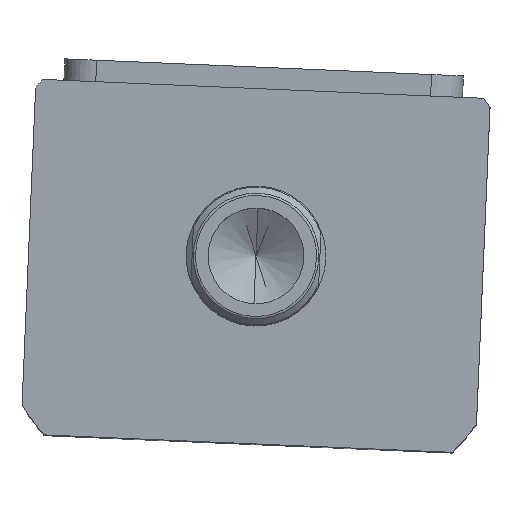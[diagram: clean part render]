
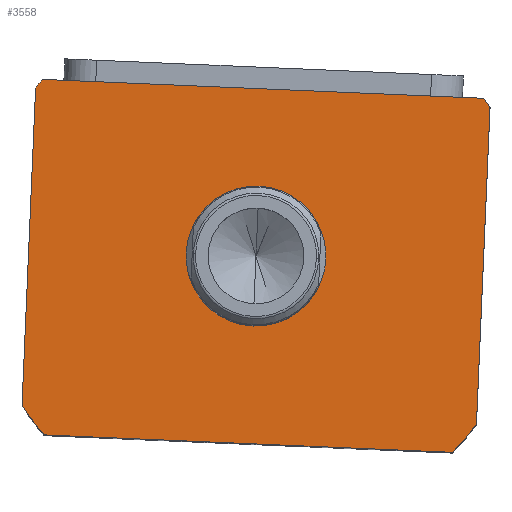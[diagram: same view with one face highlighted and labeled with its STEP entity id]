
A CAD part, top view. The second image highlights one B-rep face of the part: STEP entity #3558.
In plain terms, the highlighted planar face has unit normal (0, 0, 1) as drawn and (0, 0, -1) by its records, which use the part's own axes.
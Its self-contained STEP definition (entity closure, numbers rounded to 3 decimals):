
#67 = VECTOR ( 'NONE', #7026, 1000. ) ;
#179 = DIRECTION ( 'NONE',  ( 1., 0., 0. ) ) ;
#429 = DIRECTION ( 'NONE',  ( 0., 0., 1. ) ) ;
#519 = VERTEX_POINT ( 'NONE', #6911 ) ;
#661 = DIRECTION ( 'NONE',  ( 0., 0., 1. ) ) ;
#788 = ORIENTED_EDGE ( 'NONE', *, *, #6163, .F. ) ;
#1131 = VERTEX_POINT ( 'NONE', #6385 ) ;
#1159 = VERTEX_POINT ( 'NONE', #5357 ) ;
#1166 = LINE ( 'NONE', #5919, #18731 ) ;
#1296 = VERTEX_POINT ( 'NONE', #1778 ) ;
#1665 = CIRCLE ( 'NONE', #10764, 69.5 ) ;
#1778 = CARTESIAN_POINT ( 'NONE',  ( -55.374, 44.5, 0. ) ) ;
#1914 = DIRECTION ( 'NONE',  ( 1., 0., 0. ) ) ;
#2025 = ORIENTED_EDGE ( 'NONE', *, *, #9361, .F. ) ;
#2246 = VERTEX_POINT ( 'NONE', #15488 ) ;
#2801 = FACE_BOUND ( 'NONE', #5632, .T. ) ;
#3169 = AXIS2_PLACEMENT_3D ( 'NONE', #15625, #6961, #17053 ) ;
#3246 = CIRCLE ( 'NONE', #9551, 17.5 ) ;
#3558 = ADVANCED_FACE ( 'NONE', ( #2801, #17785 ), #7801, .F. ) ;
#4352 = EDGE_CURVE ( 'NONE', #1296, #519, #5086, .T. ) ;
#5086 = CIRCLE ( 'NONE', #13760, 69.5 ) ;
#5357 = CARTESIAN_POINT ( 'NONE',  ( 57., 42.265, 0. ) ) ;
#5456 = EDGE_CURVE ( 'NONE', #2246, #1131, #6801, .T. ) ;
#5632 = EDGE_LOOP ( 'NONE', ( #9045, #17868 ) ) ;
#5908 = EDGE_CURVE ( 'NONE', #18868, #1296, #14710, .T. ) ;
#5919 = CARTESIAN_POINT ( 'NONE',  ( 57., 44.5, 0. ) ) ;
#5937 = CARTESIAN_POINT ( 'NONE',  ( -51.198, -44.5, 0. ) ) ;
#6163 = EDGE_CURVE ( 'NONE', #1159, #18868, #1665, .T. ) ;
#6385 = CARTESIAN_POINT ( 'NONE',  ( 57., -37.265, 0. ) ) ;
#6801 = CIRCLE ( 'NONE', #10150, 69.5 ) ;
#6911 = CARTESIAN_POINT ( 'NONE',  ( -57., 42.265, 0. ) ) ;
#6961 = DIRECTION ( 'NONE',  ( 0., 0., 1. ) ) ;
#7026 = DIRECTION ( 'NONE',  ( 0., -1., 0. ) ) ;
#7284 = CIRCLE ( 'NONE', #16422, 17.5 ) ;
#7304 = DIRECTION ( 'NONE',  ( 0., 0., 1. ) ) ;
#7424 = DIRECTION ( 'NONE',  ( 0., 0., 1. ) ) ;
#7470 = CARTESIAN_POINT ( 'NONE',  ( 17.5, 2.5, 0. ) ) ;
#7801 = PLANE ( 'NONE',  #14131 ) ;
#8321 = VERTEX_POINT ( 'NONE', #10050 ) ;
#8794 = DIRECTION ( 'NONE',  ( 0., 0., 1. ) ) ;
#9045 = ORIENTED_EDGE ( 'NONE', *, *, #15649, .T. ) ;
#9282 = CARTESIAN_POINT ( 'NONE',  ( 0., 2.5, 0. ) ) ;
#9361 = EDGE_CURVE ( 'NONE', #1131, #1159, #1166, .T. ) ;
#9507 = CARTESIAN_POINT ( 'NONE',  ( 0., 2.5, 0. ) ) ;
#9551 = AXIS2_PLACEMENT_3D ( 'NONE', #9507, #661, #10984 ) ;
#9871 = CIRCLE ( 'NONE', #3169, 69.5 ) ;
#10010 = LINE ( 'NONE', #10501, #12934 ) ;
#10035 = ORIENTED_EDGE ( 'NONE', *, *, #5456, .F. ) ;
#10050 = CARTESIAN_POINT ( 'NONE',  ( -17.5, 2.5, 0. ) ) ;
#10150 = AXIS2_PLACEMENT_3D ( 'NONE', #17426, #8794, #18891 ) ;
#10501 = CARTESIAN_POINT ( 'NONE',  ( -57., -44.5, 0. ) ) ;
#10639 = VERTEX_POINT ( 'NONE', #7470 ) ;
#10736 = DIRECTION ( 'NONE',  ( 0., 0., 1. ) ) ;
#10752 = DIRECTION ( 'NONE',  ( 1., 0., 0. ) ) ;
#10764 = AXIS2_PLACEMENT_3D ( 'NONE', #15949, #7304, #17391 ) ;
#10984 = DIRECTION ( 'NONE',  ( 1., 0., 0. ) ) ;
#11009 = ORIENTED_EDGE ( 'NONE', *, *, #4352, .F. ) ;
#11163 = ORIENTED_EDGE ( 'NONE', *, *, #16838, .F. ) ;
#11340 = DIRECTION ( 'NONE',  ( -1., 0., 0. ) ) ;
#12329 = EDGE_CURVE ( 'NONE', #8321, #10639, #3246, .T. ) ;
#12643 = ORIENTED_EDGE ( 'NONE', *, *, #5908, .F. ) ;
#12934 = VECTOR ( 'NONE', #179, 1000. ) ;
#13760 = AXIS2_PLACEMENT_3D ( 'NONE', #16072, #7424, #17503 ) ;
#14024 = CARTESIAN_POINT ( 'NONE',  ( -57., 44.5, 0. ) ) ;
#14131 = AXIS2_PLACEMENT_3D ( 'NONE', #17892, #10736, #1914 ) ;
#14298 = ORIENTED_EDGE ( 'NONE', *, *, #16367, .F. ) ;
#14710 = LINE ( 'NONE', #14024, #18080 ) ;
#14807 = EDGE_CURVE ( 'NONE', #14901, #17921, #9871, .T. ) ;
#14901 = VERTEX_POINT ( 'NONE', #15744 ) ;
#15177 = LINE ( 'NONE', #17116, #67 ) ;
#15488 = CARTESIAN_POINT ( 'NONE',  ( 51.198, -44.5, 0. ) ) ;
#15625 = CARTESIAN_POINT ( 'NONE',  ( 0., 2.5, 0. ) ) ;
#15649 = EDGE_CURVE ( 'NONE', #10639, #8321, #7284, .T. ) ;
#15744 = CARTESIAN_POINT ( 'NONE',  ( -57., -37.265, 0. ) ) ;
#15820 = ORIENTED_EDGE ( 'NONE', *, *, #14807, .F. ) ;
#15873 = CARTESIAN_POINT ( 'NONE',  ( 55.374, 44.5, 0. ) ) ;
#15949 = CARTESIAN_POINT ( 'NONE',  ( 0., 2.5, 0. ) ) ;
#16072 = CARTESIAN_POINT ( 'NONE',  ( 0., 2.5, 0. ) ) ;
#16291 = EDGE_LOOP ( 'NONE', ( #788, #2025, #10035, #11163, #15820, #14298, #11009, #12643 ) ) ;
#16367 = EDGE_CURVE ( 'NONE', #519, #14901, #15177, .T. ) ;
#16422 = AXIS2_PLACEMENT_3D ( 'NONE', #9282, #429, #10752 ) ;
#16838 = EDGE_CURVE ( 'NONE', #17921, #2246, #10010, .T. ) ;
#17053 = DIRECTION ( 'NONE',  ( 1., 0., 0. ) ) ;
#17116 = CARTESIAN_POINT ( 'NONE',  ( -57., 44.5, 0. ) ) ;
#17391 = DIRECTION ( 'NONE',  ( 1., 0., 0. ) ) ;
#17426 = CARTESIAN_POINT ( 'NONE',  ( 0., 2.5, 0. ) ) ;
#17503 = DIRECTION ( 'NONE',  ( 1., 0., 0. ) ) ;
#17785 = FACE_OUTER_BOUND ( 'NONE', #16291, .T. ) ;
#17868 = ORIENTED_EDGE ( 'NONE', *, *, #12329, .T. ) ;
#17892 = CARTESIAN_POINT ( 'NONE',  ( 0., 0., 0. ) ) ;
#17921 = VERTEX_POINT ( 'NONE', #5937 ) ;
#18080 = VECTOR ( 'NONE', #11340, 1000. ) ;
#18731 = VECTOR ( 'NONE', #18842, 1000. ) ;
#18842 = DIRECTION ( 'NONE',  ( 0., 1., 0. ) ) ;
#18868 = VERTEX_POINT ( 'NONE', #15873 ) ;
#18891 = DIRECTION ( 'NONE',  ( 1., 0., 0. ) ) ;
